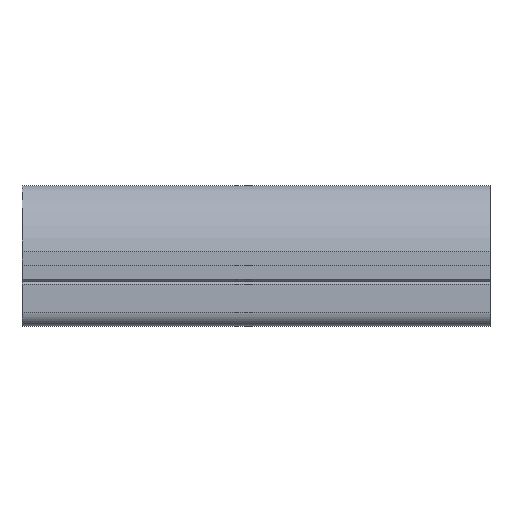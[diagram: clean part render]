
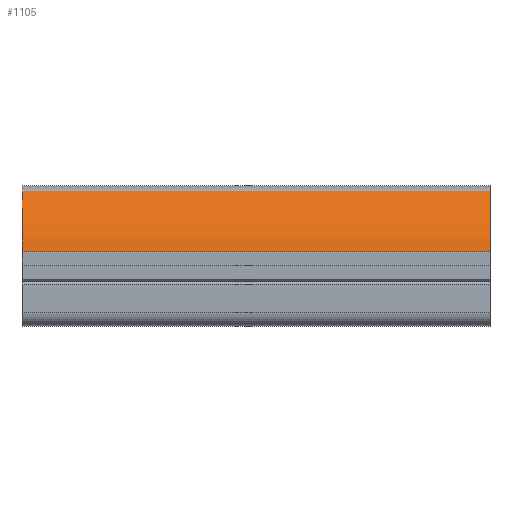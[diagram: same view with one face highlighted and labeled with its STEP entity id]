
A CAD part, top view. The second image highlights one B-rep face of the part: STEP entity #1105.
In plain terms, the highlighted cylindrical face has radius 20.354 mm (diameter 40.708 mm), a partial arc.
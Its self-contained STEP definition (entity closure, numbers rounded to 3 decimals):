
#20 = LINE ( 'NONE', #1048, #477 ) ;
#40 = ORIENTED_EDGE ( 'NONE', *, *, #96, .F. ) ;
#51 = CARTESIAN_POINT ( 'NONE',  ( 100., 15.916, 11. ) ) ;
#91 = ORIENTED_EDGE ( 'NONE', *, *, #957, .T. ) ;
#96 = EDGE_CURVE ( 'NONE', #926, #911, #296, .T. ) ;
#158 = DIRECTION ( 'NONE',  ( 0., 0., -1. ) ) ;
#210 = AXIS2_PLACEMENT_3D ( 'NONE', #879, #883, #158 ) ;
#296 = CIRCLE ( 'NONE', #690, 20.354 ) ;
#320 = EDGE_CURVE ( 'NONE', #970, #322, #557, .T. ) ;
#322 = VERTEX_POINT ( 'NONE', #706 ) ;
#369 = EDGE_CURVE ( 'NONE', #911, #322, #20, .T. ) ;
#382 = CYLINDRICAL_SURFACE ( 'NONE', #772, 20.354 ) ;
#383 = CARTESIAN_POINT ( 'NONE',  ( 100., 28.837, 3.875 ) ) ;
#414 = FACE_OUTER_BOUND ( 'NONE', #826, .T. ) ;
#473 = DIRECTION ( 'NONE',  ( 0., 0., -1. ) ) ;
#477 = VECTOR ( 'NONE', #1026, 1000. ) ;
#495 = CARTESIAN_POINT ( 'NONE',  ( 0., 28.837, 3.875 ) ) ;
#518 = CARTESIAN_POINT ( 'NONE',  ( 100., 13.216, -9.174 ) ) ;
#557 = CIRCLE ( 'NONE', #210, 20.354 ) ;
#654 = DIRECTION ( 'NONE',  ( 1., 0., 0. ) ) ;
#675 = ORIENTED_EDGE ( 'NONE', *, *, #369, .F. ) ;
#684 = DIRECTION ( 'NONE',  ( 0., 0., 1. ) ) ;
#690 = AXIS2_PLACEMENT_3D ( 'NONE', #1044, #654, #473 ) ;
#706 = CARTESIAN_POINT ( 'NONE',  ( 0., 15.916, 11. ) ) ;
#772 = AXIS2_PLACEMENT_3D ( 'NONE', #518, #1108, #684 ) ;
#826 = EDGE_LOOP ( 'NONE', ( #902, #675, #40, #91 ) ) ;
#845 = VECTOR ( 'NONE', #1096, 1000. ) ;
#875 = LINE ( 'NONE', #1094, #845 ) ;
#879 = CARTESIAN_POINT ( 'NONE',  ( 0., 13.216, -9.174 ) ) ;
#883 = DIRECTION ( 'NONE',  ( 1., 0., 0. ) ) ;
#902 = ORIENTED_EDGE ( 'NONE', *, *, #320, .T. ) ;
#911 = VERTEX_POINT ( 'NONE', #51 ) ;
#926 = VERTEX_POINT ( 'NONE', #383 ) ;
#957 = EDGE_CURVE ( 'NONE', #926, #970, #875, .T. ) ;
#970 = VERTEX_POINT ( 'NONE', #495 ) ;
#1026 = DIRECTION ( 'NONE',  ( -1., 0., 0. ) ) ;
#1044 = CARTESIAN_POINT ( 'NONE',  ( 100., 13.216, -9.174 ) ) ;
#1048 = CARTESIAN_POINT ( 'NONE',  ( 100., 15.916, 11. ) ) ;
#1094 = CARTESIAN_POINT ( 'NONE',  ( 100., 28.837, 3.875 ) ) ;
#1096 = DIRECTION ( 'NONE',  ( -1., 0., 0. ) ) ;
#1105 = ADVANCED_FACE ( 'NONE', ( #414 ), #382, .T. ) ;
#1108 = DIRECTION ( 'NONE',  ( -1., 0., 0. ) ) ;
